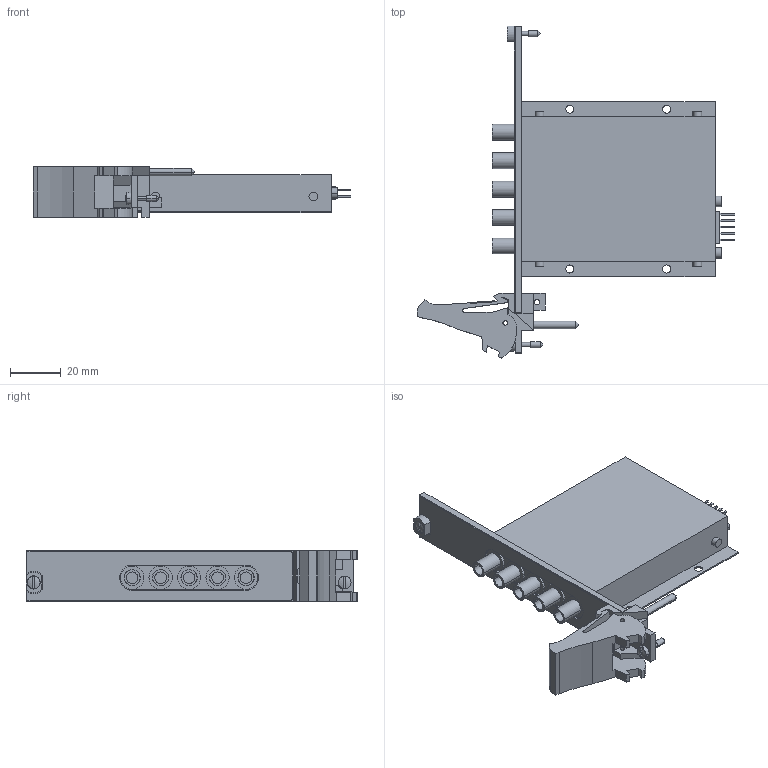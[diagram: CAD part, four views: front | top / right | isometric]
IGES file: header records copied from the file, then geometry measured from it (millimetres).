
Start section:  PTC IGES file: cu_pxi-2591.igs
Global section: file name: cu_pxi-2591.igs; native system: Pro/ENGINEER by Parametric Technology Corporation; preprocessor: 2010230; author: jjorden; organization: Unknown; date: 20110815.092324; units: inch
Bounding box: 124.97 x 130.62 x 20.02 mm (x, y, z)
Surface area: 26731 mm2 (no closed solid volume)
Topology: 0 solids, 0 shells, 373 faces, 1868 edges, 1864 vertices
Faces by surface type: bspline 234, revolution 139
